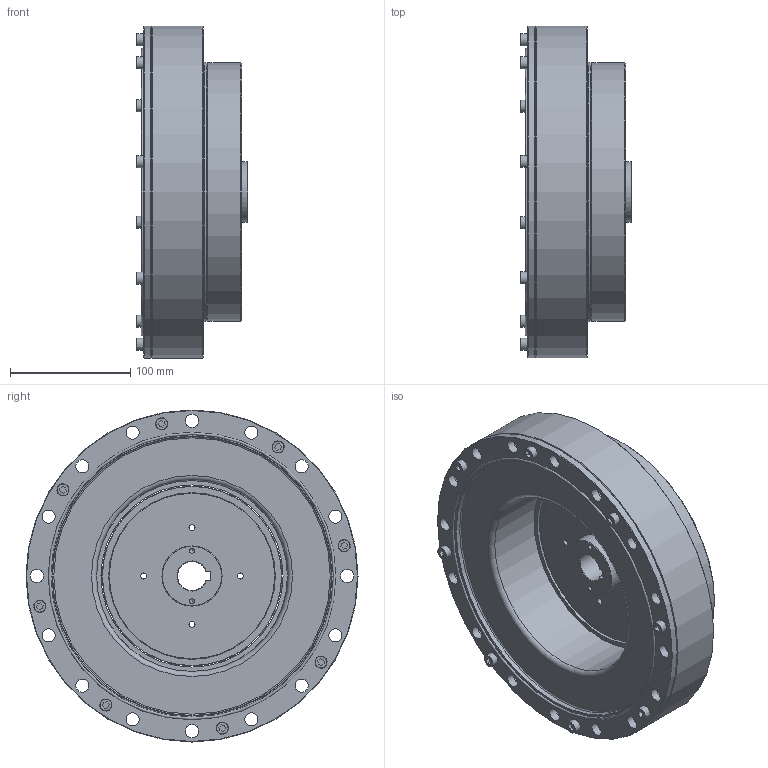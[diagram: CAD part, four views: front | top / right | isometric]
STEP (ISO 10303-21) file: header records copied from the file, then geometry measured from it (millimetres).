
FILE_DESCRIPTION (( 'STEP AP203' ), '1' );
FILE_NAME ('FHG-65-XXX-SJ.STEP', '2025-06-24T01:24:54', ( '微软用户' ), ( '微软中国' ), 'SwSTEP 2.0', 'SolidWorks 2016', '' );
FILE_SCHEMA (( 'CONFIG_CONTROL_DESIGN' ));
Length unit declared in the file: millimetre
Products named in the file (1): FHG-65-XXX-SJ
Bounding box: 92.5 x 276 x 276 mm (x, y, z)
Volume: 2321216.1 mm3; surface area: 694762.9 mm2
Topology: 53 solids, 53 shells, 642 faces, 1488 edges, 958 vertices
Faces by surface type: plane 255, cylinder 233, cone 83, torus 48, sphere 23
Full cylindrical faces by diameter (mm): 4.2 x2, 5 x20, 6 x16, 6.6 x16, 8.5 x16, 10 x16, 11 x56, 50 x2, 117.9 x1, 120 x1, 124 x1, 126.1 x2, 129 x1, 138.51 x1, 149 x1, 151.4 x2, 159.3 x1, 159.312 x1, 161.588 x1, 163.41 x1, 166.149 x1, 168.5 x1, 175 x3, 180.4 x2, 195.322 x1, 215 x1, 216 x4, 220 x2, 221 x1, 227.5 x1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
Entity records: 15889 total; most frequent: DIRECTION 2958, CARTESIAN_POINT 2531, ORIENTED_EDGE 2070, AXIS2_PLACEMENT_3D 1284, EDGE_LOOP 1138, EDGE_CURVE 1035, FACE_OUTER_BOUND 843, VERTEX_POINT 841
